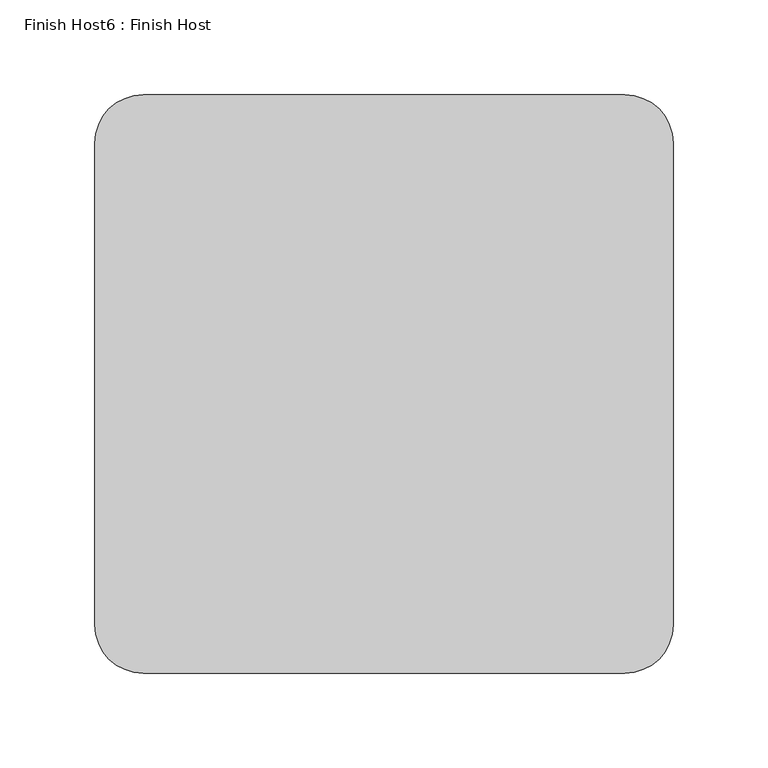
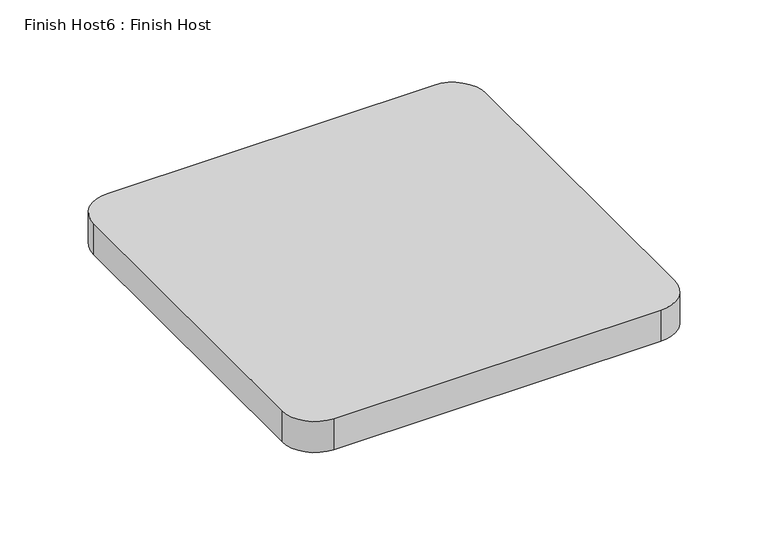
"""IFC4 building model written with IfcOpenShell, lengths in millimetres: proxy geometry, Finish Host6 : Finish Host."""

from ifc_helpers import new_model, si_unit, point, frame_2d, origin, origin_with_axes, place, context, project, spatial, polyline, circle_curve, trimmed, segment, composite_curve, outline, extrude, source, transform, mapped, element, save


def finish_host6_finish_host_95f67b8d(model_context):
    return source(origin(), model_context, "Body", "SweptSolid", [
        extrude(outline(composite_curve([segment(polyline([(1190.1649374, 2632.9667263), (1190.1649374, 2886.9667263)]), True, "CONTINUOUS"), segment(trimmed(circle_curve(frame_2d((1215.5649374, 2886.9667263)), 25.4), [point((1190.1649374, 2886.9667263))], [point((1215.5649374, 2912.3667263))], False, "CARTESIAN"), True, "CONTINUOUS"), segment(polyline([(1215.5649374, 2912.3667263), (1469.5649374, 2912.3667263)]), True, "CONTINUOUS"), segment(trimmed(circle_curve(frame_2d((1469.5649374, 2886.9667263)), 25.4), [point((1469.5649374, 2912.3667263))], [point((1494.9649374, 2886.9667263))], False, "CARTESIAN"), True, "CONTINUOUS"), segment(polyline([(1494.9649374, 2886.9667263), (1494.9649374, 2632.9667263)]), True, "CONTINUOUS"), segment(trimmed(circle_curve(frame_2d((1469.5649374, 2632.9667263)), 25.4), [point((1494.9649374, 2632.9667263))], [point((1469.5649374, 2607.5667263))], False, "CARTESIAN"), True, "CONTINUOUS"), segment(polyline([(1469.5649374, 2607.5667263), (1215.5649374, 2607.5667263)]), True, "CONTINUOUS"), segment(trimmed(circle_curve(frame_2d((1215.5649374, 2632.9667263)), 25.4), [point((1215.5649374, 2607.5667263))], [point((1190.1649374, 2632.9667263))], False, "CARTESIAN"), True, "CONTINUOUS")], self_intersect=False)), origin_with_axes(), (0.0, 0.0, 1.0), 25.4),
    ])


if __name__ == "__main__":
    model = new_model("IFC4")
    model_context = context("Model", 3, world=origin())
    ifc_project = project(units=[si_unit("LENGTHUNIT", "METRE", prefix="MILLI")], contexts=[model_context])
    site = spatial("IfcSite", under=ifc_project)
    building = spatial("IfcBuilding", under=site)
    placement = place(None, origin())
    finish_host6_finish_host_shape = finish_host6_finish_host_95f67b8d(model_context)
    element("IfcBuildingElementProxy", 1, Name="Finish Host6 : Finish Host", ObjectType="Finish Host6 : Finish Host", at=placement, inside=building, context=model_context, shape_type="MappedRepresentation", body=[
        mapped(finish_host6_finish_host_shape, transform((0.0, 0.0, 0.0), x_axis=(1.0, 0.0, 0.0), y_axis=(0.0, 1.0, 0.0), z_axis=(0.0, 0.0, 1.0))),
    ])
    save(model, "model.ifc")
